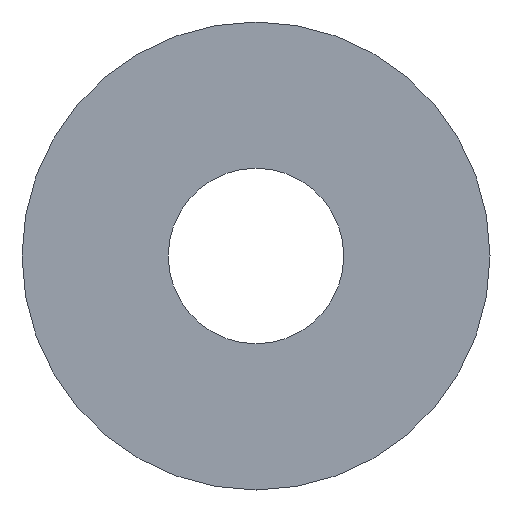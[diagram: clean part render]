
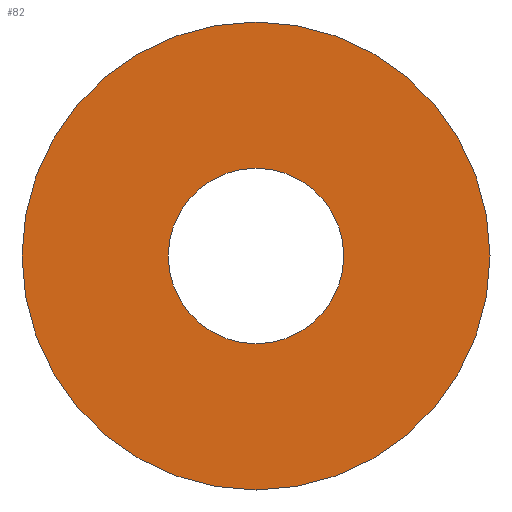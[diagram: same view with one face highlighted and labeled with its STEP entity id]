
A CAD part, front view. The second image highlights one B-rep face of the part: STEP entity #82.
In plain terms, the highlighted planar face has unit normal (0, -1, 0).
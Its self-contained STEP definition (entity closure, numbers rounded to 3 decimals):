
#4 = CIRCLE ( 'NONE', #227, 2. ) ;
#11 = CARTESIAN_POINT ( 'NONE',  ( 0., 0., 0. ) ) ;
#20 = ORIENTED_EDGE ( 'NONE', *, *, #66, .F. ) ;
#29 = CARTESIAN_POINT ( 'NONE',  ( 0., 0., 0. ) ) ;
#40 = EDGE_CURVE ( 'NONE', #153, #98, #55, .T. ) ;
#55 = CIRCLE ( 'NONE', #115, 0.75 ) ;
#60 = CIRCLE ( 'NONE', #257, 2. ) ;
#66 = EDGE_CURVE ( 'NONE', #104, #160, #4, .T. ) ;
#82 = ADVANCED_FACE ( 'NONE', ( #123, #246 ), #117, .F. ) ;
#93 = EDGE_LOOP ( 'NONE', ( #136, #128 ) ) ;
#95 = DIRECTION ( 'NONE',  ( 0., 1., 0. ) ) ;
#96 = DIRECTION ( 'NONE',  ( -1., 0., 0. ) ) ;
#98 = VERTEX_POINT ( 'NONE', #289 ) ;
#104 = VERTEX_POINT ( 'NONE', #286 ) ;
#114 = DIRECTION ( 'NONE',  ( -1., 0., 0. ) ) ;
#115 = AXIS2_PLACEMENT_3D ( 'NONE', #182, #184, #163 ) ;
#117 = PLANE ( 'NONE',  #284 ) ;
#120 = ORIENTED_EDGE ( 'NONE', *, *, #238, .F. ) ;
#123 = FACE_OUTER_BOUND ( 'NONE', #146, .T. ) ;
#128 = ORIENTED_EDGE ( 'NONE', *, *, #158, .T. ) ;
#129 = CARTESIAN_POINT ( 'NONE',  ( 2., 0., 0. ) ) ;
#135 = DIRECTION ( 'NONE',  ( 0., 1., 0. ) ) ;
#136 = ORIENTED_EDGE ( 'NONE', *, *, #40, .T. ) ;
#146 = EDGE_LOOP ( 'NONE', ( #20, #120 ) ) ;
#153 = VERTEX_POINT ( 'NONE', #209 ) ;
#158 = EDGE_CURVE ( 'NONE', #98, #153, #229, .T. ) ;
#160 = VERTEX_POINT ( 'NONE', #260 ) ;
#163 = DIRECTION ( 'NONE',  ( -1., 0., 0. ) ) ;
#182 = CARTESIAN_POINT ( 'NONE',  ( 0., 0., 0. ) ) ;
#184 = DIRECTION ( 'NONE',  ( 0., 1., 0. ) ) ;
#191 = CARTESIAN_POINT ( 'NONE',  ( 0., 0., 0. ) ) ;
#209 = CARTESIAN_POINT ( 'NONE',  ( -0.75, 0., 0. ) ) ;
#227 = AXIS2_PLACEMENT_3D ( 'NONE', #29, #95, #258 ) ;
#229 = CIRCLE ( 'NONE', #242, 0.75 ) ;
#238 = EDGE_CURVE ( 'NONE', #160, #104, #60, .T. ) ;
#242 = AXIS2_PLACEMENT_3D ( 'NONE', #11, #291, #96 ) ;
#246 = FACE_BOUND ( 'NONE', #93, .T. ) ;
#257 = AXIS2_PLACEMENT_3D ( 'NONE', #191, #272, #292 ) ;
#258 = DIRECTION ( 'NONE',  ( -1., 0., 0. ) ) ;
#260 = CARTESIAN_POINT ( 'NONE',  ( 2., 0., 0. ) ) ;
#272 = DIRECTION ( 'NONE',  ( 0., 1., 0. ) ) ;
#284 = AXIS2_PLACEMENT_3D ( 'NONE', #129, #135, #114 ) ;
#286 = CARTESIAN_POINT ( 'NONE',  ( -2., 0., 0. ) ) ;
#289 = CARTESIAN_POINT ( 'NONE',  ( 0.75, 0., 0. ) ) ;
#291 = DIRECTION ( 'NONE',  ( 0., 1., 0. ) ) ;
#292 = DIRECTION ( 'NONE',  ( -1., 0., 0. ) ) ;
